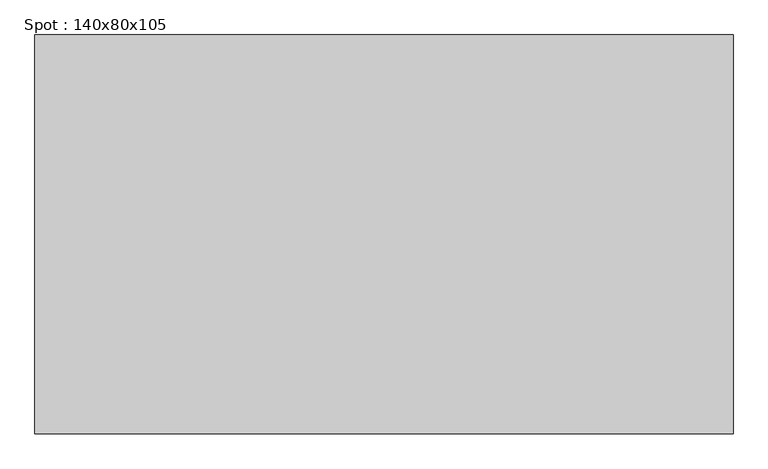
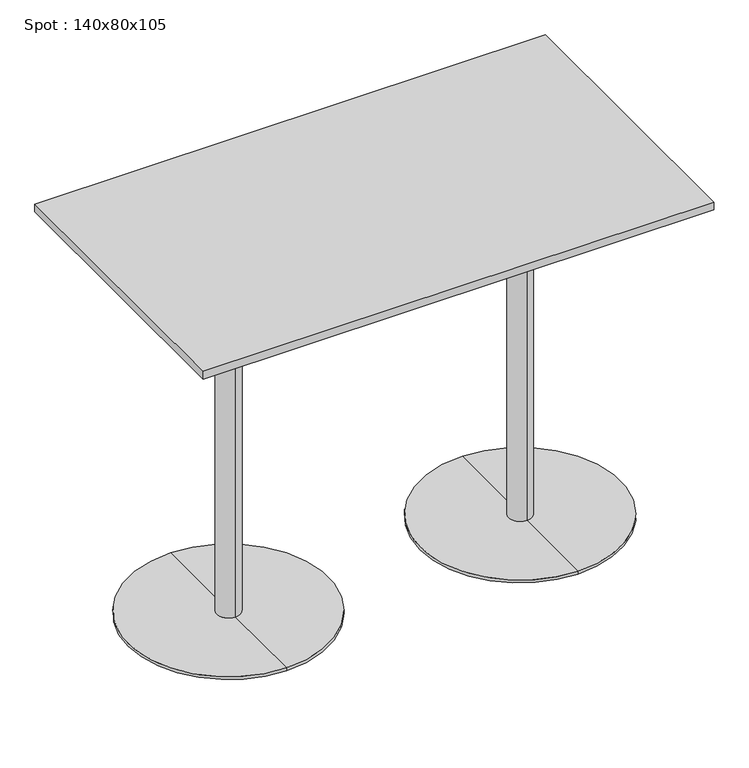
"""IFC4 building model written with IfcOpenShell, lengths in millimetres: furniture geometry, Spot : 140x80x105."""

from ifc_helpers import new_model, si_unit, frame, origin, place, context, project, spatial, polyline, circle_curve, outline, extrude, source, transform, mapped, element, save
from ifc_brep_helpers import plane_surface, cylinder_surface, revolved_surface, advanced_brep


def spot_140x80x105_6c1f9e94(model_context):
    return source(origin(), model_context, "Body", "SolidModel", [
        extrude(outline(polyline([(700.0, 400.0), (700.0, -400.0), (-700.0, -400.0), (-700.0, 400.0), (700.0, 400.0)])), frame((0.0, 0.0, 1028.0), z_axis=(0.0, 0.0, 1.0), x_axis=(1.0, 0.0, 0.0)), (0.0, 0.0, 1.0), 22.0),
        advanced_brep(
        [(-400.0, 32.0, 10.0), (-400.0, -32.0, 10.0), (-400.0, -32.0, 997.406916), (-400.0, 32.0, 997.406916), (-400.0, 275.0, 10.0), (-400.0, -275.0, 10.0), (-400.0, 275.0, 2.0), (-400.0, -275.0, 2.0), (-400.0, 0.0, 2.0), (-400.0, 150.0, 1028.0), (-400.0, -150.0, 1028.0), (-400.0, 0.0, 1028.0), (-400.0, 150.0, 1016.7213673), (-400.0, -150.0, 1016.7213673)],
        [
            (0, 1, circle_curve(frame((-400.0, 0.0, 10.0), z_axis=(0.0, 0.0, 1.0), x_axis=(0.0, -1.0, 0.0)), 32.0)),
            (1, 2),
            (2, 3, circle_curve(frame((-400.0, 0.0, 997.406916), z_axis=(0.0, 0.0, -1.0), x_axis=(0.0, -1.0, 0.0)), 32.0)),
            (3, 0),
            (1, 0, circle_curve(frame((-400.0, 0.0, 10.0), z_axis=(0.0, 0.0, 1.0), x_axis=(0.0, -1.0, 0.0)), 32.0)),
            (3, 2, circle_curve(frame((-400.0, 0.0, 997.406916), z_axis=(0.0, 0.0, -1.0), x_axis=(0.0, -1.0, 0.0)), 32.0)),
            (4, 5, circle_curve(frame((-400.0, 0.0, 10.0), z_axis=(0.0, 0.0, 1.0), x_axis=(0.0, -1.0, 0.0)), 275.0)),
            (5, 1),
            (0, 4),
            (5, 4, circle_curve(frame((-400.0, 0.0, 10.0), z_axis=(0.0, 0.0, 1.0), x_axis=(0.0, -1.0, 0.0)), 275.0)),
            (6, 7, circle_curve(frame((-400.0, 0.0, 2.0), z_axis=(0.0, 0.0, 1.0), x_axis=(0.0, -1.0, 0.0)), 275.0)),
            (7, 5),
            (4, 6),
            (7, 6, circle_curve(frame((-400.0, 0.0, 2.0), z_axis=(0.0, 0.0, 1.0), x_axis=(0.0, -1.0, 0.0)), 275.0)),
            (8, 7),
            (6, 8),
            (9, 10, circle_curve(frame((-400.0, 0.0, 1028.0), z_axis=(0.0, 0.0, 1.0), x_axis=(0.0, -1.0, 0.0)), 150.0)),
            (10, 11),
            (11, 9),
            (10, 9, circle_curve(frame((-400.0, 0.0, 1028.0), z_axis=(0.0, 0.0, 1.0), x_axis=(0.0, -1.0, 0.0)), 150.0)),
            (12, 13, circle_curve(frame((-400.0, 0.0, 1016.7213673), z_axis=(0.0, 0.0, 1.0), x_axis=(0.0, -1.0, 0.0)), 150.0)),
            (13, 10),
            (9, 12),
            (13, 12, circle_curve(frame((-400.0, 0.0, 1016.7213673), z_axis=(0.0, 0.0, 1.0), x_axis=(0.0, -1.0, 0.0)), 150.0)),
            (2, 13),
            (12, 3),
        ],
        [
            cylinder_surface(frame((-400.0, 0.0, 1390.0), z_axis=(0.0, 0.0, -1.0), x_axis=(0.0, -1.0, 0.0)), 32.0),
            plane_surface(frame((-400.0, 0.0, 10.0), z_axis=(0.0, 0.0, 1.0), x_axis=(0.0, -1.0, 0.0))),
            cylinder_surface(frame((-400.0, 0.0, 1390.0), z_axis=(0.0, 0.0, -1.0), x_axis=(0.0, -1.0, 0.0)), 275.0),
            plane_surface(frame((-400.0, 0.0, 2.0), z_axis=(0.0, 0.0, -1.0), x_axis=(0.0, -1.0, 0.0))),
            plane_surface(frame((-400.0, 0.0, 1028.0), z_axis=(0.0, 0.0, 1.0), x_axis=(0.0, -1.0, 0.0))),
            cylinder_surface(frame((-400.0, 0.0, 1390.0), z_axis=(0.0, 0.0, -1.0), x_axis=(0.0, -1.0, 0.0)), 150.0),
            revolved_surface(polyline([(-400.0, -150.0, 1016.7213673), (-400.0, -32.0, 997.406916)]), (-400.0, 0.0, 1390.0), (0.0, 0.0, -1.0)),
        ],
        [
            (0, [[1, 2, 3, 4]]),
            (0, [[5, -4, 6, -2]]),
            (1, [[7, 8, -1, 9]]),
            (1, [[10, -9, -5, -8]]),
            (2, [[11, 12, -7, 13]]),
            (2, [[14, -13, -10, -12]]),
            (3, [[15, -11, 16]]),
            (3, [[-16, -14, -15]]),
            (4, [[17, 18, 19]]),
            (4, [[20, -19, -18]]),
            (5, [[21, 22, -17, 23]]),
            (5, [[24, -23, -20, -22]]),
            (6, [[-3, 25, -21, 26]]),
            (6, [[-6, -26, -24, -25]]),
        ],
    ),
        advanced_brep(
        [(400.0, 32.0, 10.0), (400.0, -32.0, 10.0), (400.0, -32.0, 997.406916), (400.0, 32.0, 997.406916), (400.0, 275.0, 10.0), (400.0, -275.0, 10.0), (400.0, 275.0, 2.0), (400.0, -275.0, 2.0), (400.0, 0.0, 2.0), (400.0, 150.0, 1028.0), (400.0, -150.0, 1028.0), (400.0, 0.0, 1028.0), (400.0, 150.0, 1016.7213673), (400.0, -150.0, 1016.7213673)],
        [
            (0, 1, circle_curve(frame((400.0, 0.0, 10.0), z_axis=(0.0, 0.0, 1.0), x_axis=(0.0, -1.0, 0.0)), 32.0)),
            (1, 2),
            (2, 3, circle_curve(frame((400.0, 0.0, 997.406916), z_axis=(0.0, 0.0, -1.0), x_axis=(0.0, -1.0, 0.0)), 32.0)),
            (3, 0),
            (1, 0, circle_curve(frame((400.0, 0.0, 10.0), z_axis=(0.0, 0.0, 1.0), x_axis=(0.0, -1.0, 0.0)), 32.0)),
            (3, 2, circle_curve(frame((400.0, 0.0, 997.406916), z_axis=(0.0, 0.0, -1.0), x_axis=(0.0, -1.0, 0.0)), 32.0)),
            (4, 5, circle_curve(frame((400.0, 0.0, 10.0), z_axis=(0.0, 0.0, 1.0), x_axis=(0.0, -1.0, 0.0)), 275.0)),
            (5, 1),
            (0, 4),
            (5, 4, circle_curve(frame((400.0, 0.0, 10.0), z_axis=(0.0, 0.0, 1.0), x_axis=(0.0, -1.0, 0.0)), 275.0)),
            (6, 7, circle_curve(frame((400.0, 0.0, 2.0), z_axis=(0.0, 0.0, 1.0), x_axis=(0.0, -1.0, 0.0)), 275.0)),
            (7, 5),
            (4, 6),
            (7, 6, circle_curve(frame((400.0, 0.0, 2.0), z_axis=(0.0, 0.0, 1.0), x_axis=(0.0, -1.0, 0.0)), 275.0)),
            (8, 7),
            (6, 8),
            (9, 10, circle_curve(frame((400.0, 0.0, 1028.0), z_axis=(0.0, 0.0, 1.0), x_axis=(0.0, -1.0, 0.0)), 150.0)),
            (10, 11),
            (11, 9),
            (10, 9, circle_curve(frame((400.0, 0.0, 1028.0), z_axis=(0.0, 0.0, 1.0), x_axis=(0.0, -1.0, 0.0)), 150.0)),
            (12, 13, circle_curve(frame((400.0, 0.0, 1016.7213673), z_axis=(0.0, 0.0, 1.0), x_axis=(0.0, -1.0, 0.0)), 150.0)),
            (13, 10),
            (9, 12),
            (13, 12, circle_curve(frame((400.0, 0.0, 1016.7213673), z_axis=(0.0, 0.0, 1.0), x_axis=(0.0, -1.0, 0.0)), 150.0)),
            (2, 13),
            (12, 3),
        ],
        [
            cylinder_surface(frame((400.0, 0.0, 1390.0), z_axis=(0.0, 0.0, -1.0), x_axis=(0.0, -1.0, 0.0)), 32.0),
            plane_surface(frame((400.0, 0.0, 10.0), z_axis=(0.0, 0.0, 1.0), x_axis=(0.0, -1.0, 0.0))),
            cylinder_surface(frame((400.0, 0.0, 1390.0), z_axis=(0.0, 0.0, -1.0), x_axis=(0.0, -1.0, 0.0)), 275.0),
            plane_surface(frame((400.0, 0.0, 2.0), z_axis=(0.0, 0.0, -1.0), x_axis=(0.0, -1.0, 0.0))),
            plane_surface(frame((400.0, 0.0, 1028.0), z_axis=(0.0, 0.0, 1.0), x_axis=(0.0, -1.0, 0.0))),
            cylinder_surface(frame((400.0, 0.0, 1390.0), z_axis=(0.0, 0.0, -1.0), x_axis=(0.0, -1.0, 0.0)), 150.0),
            revolved_surface(polyline([(400.0, -150.0, 1016.7213673), (400.0, -32.0, 997.406916)]), (400.0, 0.0, 1390.0), (0.0, 0.0, -1.0)),
        ],
        [
            (0, [[1, 2, 3, 4]]),
            (0, [[5, -4, 6, -2]]),
            (1, [[7, 8, -1, 9]]),
            (1, [[10, -9, -5, -8]]),
            (2, [[11, 12, -7, 13]]),
            (2, [[14, -13, -10, -12]]),
            (3, [[15, -11, 16]]),
            (3, [[-16, -14, -15]]),
            (4, [[17, 18, 19]]),
            (4, [[20, -19, -18]]),
            (5, [[21, 22, -17, 23]]),
            (5, [[24, -23, -20, -22]]),
            (6, [[-3, 25, -21, 26]]),
            (6, [[-6, -26, -24, -25]]),
        ],
    ),
    ])


if __name__ == "__main__":
    model = new_model("IFC4")
    model_context = context("Model", 3, world=origin())
    ifc_project = project(units=[si_unit("LENGTHUNIT", "METRE", prefix="MILLI")], contexts=[model_context])
    site = spatial("IfcSite", under=ifc_project)
    building = spatial("IfcBuilding", under=site)
    placement = place(None, origin())
    spot_140x80x105_shape = spot_140x80x105_6c1f9e94(model_context)
    element("IfcFurniture", 1, ObjectType="Spot : 140x80x105", at=placement, inside=building, context=model_context, shape_type="MappedRepresentation", body=[
        mapped(spot_140x80x105_shape, transform((0.0, 0.0, 0.0), x_axis=(1.0, 0.0, 0.0), y_axis=(0.0, 1.0, 0.0), z_axis=(0.0, 0.0, 1.0))),
    ])
    save(model, "model.ifc")
